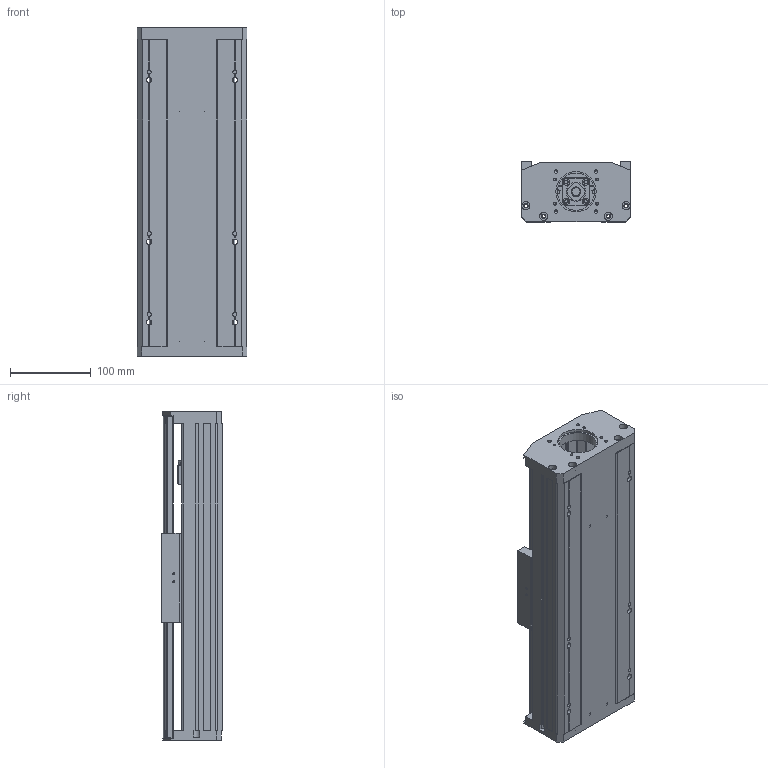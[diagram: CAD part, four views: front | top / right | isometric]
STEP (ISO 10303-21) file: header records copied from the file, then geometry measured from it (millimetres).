
FILE_DESCRIPTION(/* description */ (''),/* implementation_level */ '2;1');
FILE_NAME(/* name */ 'TKA136-F0-150_asm1.stp',/* time_stamp */ '2016-05-07T08:14:46+08:00',/* author */ (''),/* organization */ (''),/* preprocessor_version */ 'ST-DEVELOPER v15',/* originating_system */ 'SIEMENS PLM Software NX 8.5',/* authorisation */ '');
FILE_SCHEMA (('AUTOMOTIVE_DESIGN { 1 0 10303 214 3 1 1 1 }'));
Length unit declared in the file: millimetre
Products named in the file (3): 150-02; 150-01; TKA136-F0-150_asm1
Assembly tree (2 placements, depth 2):
  TKA136-F0-150_asm1
    150-01
    150-02
Bounding box: 136 x 75 x 407 mm (x, y, z)
Volume: 1559258.2 mm3; surface area: 543825.6 mm2
Topology: 2 solids, 12 shells, 781 faces, 2141 edges, 1398 vertices
Faces by surface type: plane 379, cylinder 348, cone 54
Full cylindrical faces by diameter (mm): 2.5 x4, 3 x2, 3.3 x12, 4 x4, 4.2 x10, 4.5 x20, 5 x10, 5.5 x26, 6.6 x10, 8 x20, 10 x9, 10.5 x6, 11 x4, 11.6 x1, 12 x9, 15 x3, 16 x5, 17 x1, 24 x5, 26 x1, 28 x1, 46 x1, 50 x1
Entity records: 25500 total; most frequent: CARTESIAN_POINT 6708, DIRECTION 3917, ORIENTED_EDGE 3596, EDGE_CURVE 1798, AXIS2_PLACEMENT_3D 1487, VERTEX_POINT 1300, EDGE_LOOP 1136, LINE 943
